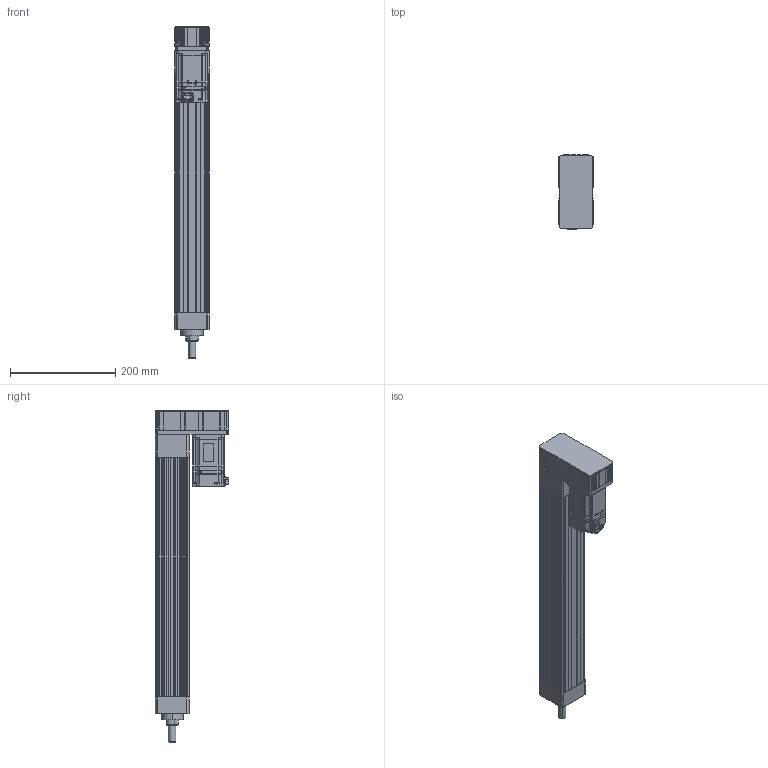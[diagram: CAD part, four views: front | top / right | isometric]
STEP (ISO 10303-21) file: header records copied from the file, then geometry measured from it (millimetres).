
FILE_DESCRIPTION (( 'STEP AP203' ), '1' );
FILE_NAME ('ANS065R-P350-05(10)(20)-W40-M.STEP', '2019-03-03T04:43:23', ( 'user' ), ( '' ), 'SwSTEP 2.0', 'SolidWorks 2013', '' );
FILE_SCHEMA (( 'CONFIG_CONTROL_DESIGN' ));
Length unit declared in the file: millimetre
Products named in the file (4): ANS065R P350 VER2; sgmjv_04a_a21; ANS065 ROD ST350-M; ANS065R-P350-05(10)(20)-W40-M
Assembly tree (3 placements, depth 2):
  ANS065R-P350-05(10)(20)-W40-M
    ANS065R P350 VER2
    sgmjv_04a_a21
    ANS065 ROD ST350-M
Bounding box: 65 x 140.3 x 630 mm (x, y, z)
Volume: 1797511.4 mm3; surface area: 447639.7 mm2
Topology: 3 solids, 7 shells, 1283 faces, 3465 edges, 2248 vertices
Faces by surface type: plane 817, cylinder 380, cone 86
Entity records: 40363 total; most frequent: CARTESIAN_POINT 7232, ORIENTED_EDGE 6898, DIRECTION 6761, EDGE_CURVE 3449, VECTOR 2567, LINE 2567, VERTEX_POINT 2248, AXIS2_PLACEMENT_3D 2097
